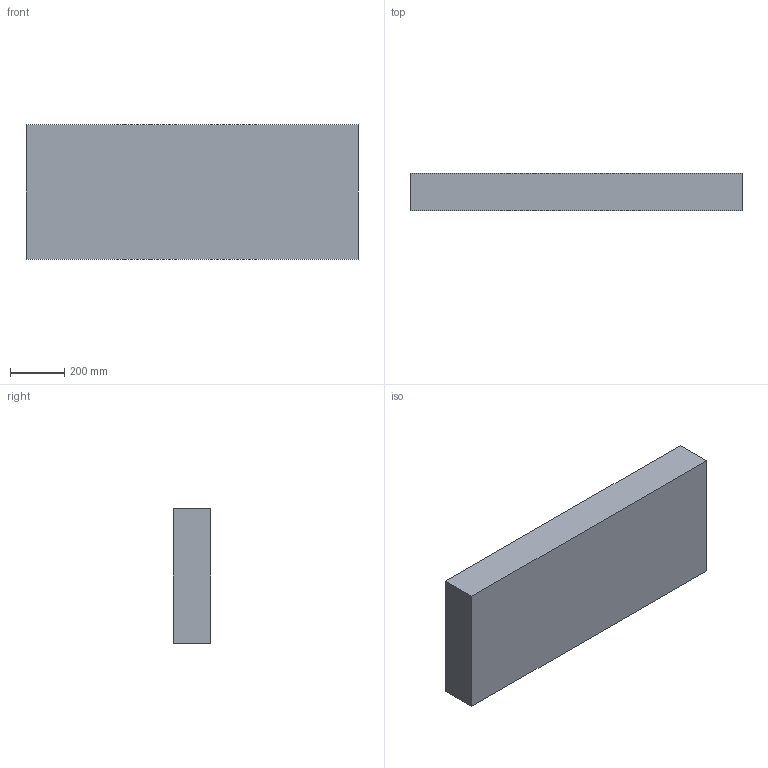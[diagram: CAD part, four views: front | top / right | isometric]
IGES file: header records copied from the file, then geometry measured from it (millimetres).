
Start section: SolidWorks IGES file using analytic representation for surfaces
Global section: file name: C:\Users\chad.chaiyont\My Project\Vault Case\Vault TOR\Vault CAD\PP PID cad\V730 PP\V730 PP tubs\V730 PP BOTTOM TUB 2-5-2024.IGS; native system: SolidWorks 2021; preprocessor: SolidWorks 2021; author: Chad.Chaiyont; date: 240215.101509; units: millimetre
Bounding box: 1224.66 x 137.36 x 497.41 mm (x, y, z)
Surface area: 2139374.2 mm2 (no closed solid volume)
Topology: 0 solids, 0 shells, 807 faces, 4518 edges, 4431 vertices
Faces by surface type: bspline 807
